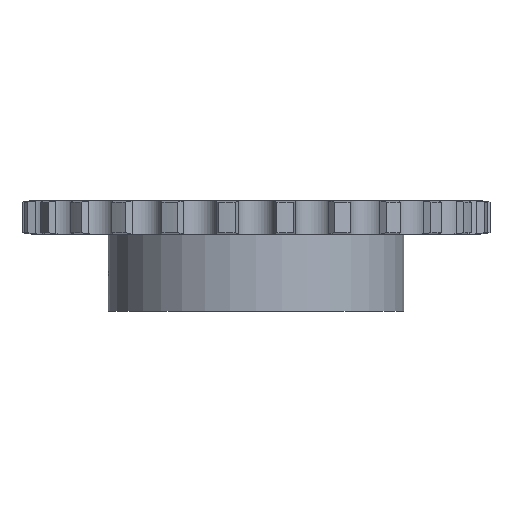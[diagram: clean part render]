
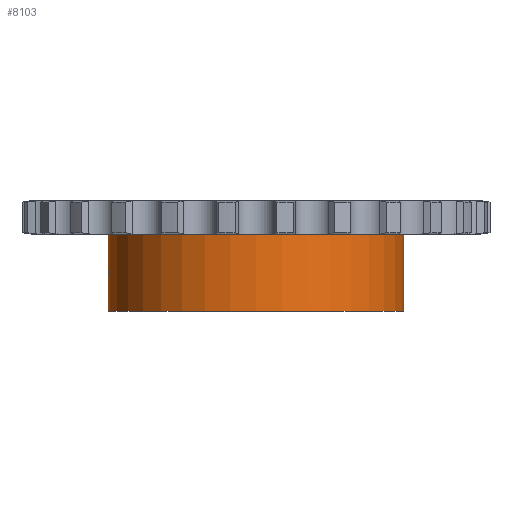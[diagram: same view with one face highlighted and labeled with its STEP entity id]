
A CAD part, front view. The second image highlights one B-rep face of the part: STEP entity #8103.
In plain terms, the highlighted cylindrical face has radius 40 mm (diameter 80 mm), a partial arc.
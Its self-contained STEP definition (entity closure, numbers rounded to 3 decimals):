
#1375=CARTESIAN_POINT('',(0.,0.,-4.55));
#1376=DIRECTION('',(0.,0.,1.));
#1377=DIRECTION('',(-1.,0.,0.));
#1378=AXIS2_PLACEMENT_3D('',#1375,#1376,#1377);
#4156=CARTESIAN_POINT('',(-40.,0.,
-13.));
#4178=DIRECTION('',(0.,0.,1.));
#4179=VECTOR('',#4178,20.9);
#4180=CARTESIAN_POINT('',(40.,0.,-25.45));
#4181=LINE('',#4180,#4179);
#4297=CARTESIAN_POINT('',(-40.,0.,
-13.));
#4298=CARTESIAN_POINT('',(-40.,-0.105,
-13.));
#4299=CARTESIAN_POINT('',(-39.999,-0.313,
-13.016));
#4300=CARTESIAN_POINT('',(-39.995,-0.626,
-13.09));
#4301=CARTESIAN_POINT('',(-39.99,-0.924,
-13.213));
#4302=CARTESIAN_POINT('',(-39.982,-1.196,
-13.379));
#4303=CARTESIAN_POINT('',(-39.974,-1.437,
-13.584));
#4304=CARTESIAN_POINT('',(-39.966,-1.643,
-13.825));
#4305=CARTESIAN_POINT('',(-39.959,-1.809,
-14.096));
#4306=CARTESIAN_POINT('',(-39.953,-1.93,
-14.39));
#4307=CARTESIAN_POINT('',(-39.95,-2.002,
-14.697));
#4308=CARTESIAN_POINT('',(-39.949,-2.018,
-14.899));
#4309=CARTESIAN_POINT('',(-39.949,-2.018,
-15.));
#4314=DIRECTION('',(0.,0.,1.));
#4315=VECTOR('',#4314,8.45);
#4316=CARTESIAN_POINT('',(-40.,0.,
-13.));
#4317=LINE('',#4316,#4315);
#4321=DIRECTION('',(0.,0.,1.));
#4322=VECTOR('',#4321,8.45);
#4323=CARTESIAN_POINT('',(-40.,0.,-25.45));
#4324=LINE('',#4323,#4322);
#4328=CARTESIAN_POINT('',(-39.949,-2.018,
-15.));
#4329=CARTESIAN_POINT('',(-39.949,-2.018,
-15.101));
#4330=CARTESIAN_POINT('',(-39.95,-2.002,
-15.302));
#4331=CARTESIAN_POINT('',(-39.953,-1.931,
-15.608));
#4332=CARTESIAN_POINT('',(-39.959,-1.81,
-15.902));
#4333=CARTESIAN_POINT('',(-39.966,-1.644,
-16.175));
#4334=CARTESIAN_POINT('',(-39.974,-1.437,
-16.415));
#4335=CARTESIAN_POINT('',(-39.982,-1.197,
-16.62));
#4336=CARTESIAN_POINT('',(-39.99,-0.925,
-16.787));
#4337=CARTESIAN_POINT('',(-39.995,-0.627,
-16.91));
#4338=CARTESIAN_POINT('',(-39.999,-0.313,
-16.984));
#4339=CARTESIAN_POINT('',(-40.,-0.105,
-17.));
#4340=CARTESIAN_POINT('',(-40.,0.,
-17.));
#4353=CARTESIAN_POINT('',(0.,0.,-25.45));
#4354=DIRECTION('',(0.,0.,-1.));
#4355=DIRECTION('',(1.,0.,0.));
#4356=AXIS2_PLACEMENT_3D('',#4353,#4354,#4355);
#4778=CARTESIAN_POINT('',(-40.,0.,-25.45));
#4779=CARTESIAN_POINT('',(40.,0.,-25.45));
#4780=VERTEX_POINT('',#4778);
#4781=VERTEX_POINT('',#4779);
#4782=CARTESIAN_POINT('',(40.,0.,-4.55));
#4783=VERTEX_POINT('',#4782);
#4784=CARTESIAN_POINT('',(-40.,0.,-4.55));
#4785=VERTEX_POINT('',#4784);
#5065=VERTEX_POINT('',#4156);
#5068=VERTEX_POINT('',#4309);
#5070=VERTEX_POINT('',#4340);
#8087=CARTESIAN_POINT('',(0.,0.,4.55));
#8088=DIRECTION('',(0.,0.,1.));
#8089=DIRECTION('',(1.,0.,0.));
#8090=AXIS2_PLACEMENT_3D('',#8087,#8088,#8089);
#8091=CYLINDRICAL_SURFACE('',#8090,40.);
#8092=ORIENTED_EDGE('',*,*,#8077,.F.);
#8093=ORIENTED_EDGE('',*,*,#7708,.T.);
#8094=ORIENTED_EDGE('',*,*,#6497,.T.);
#8095=ORIENTED_EDGE('',*,*,#7705,.F.);
#8097=ORIENTED_EDGE('',*,*,#8096,.T.);
#8098=ORIENTED_EDGE('',*,*,#7701,.T.);
#8100=ORIENTED_EDGE('',*,*,#8099,.F.);
#8101=EDGE_LOOP('',(#8092,#8093,#8094,#8095,#8097,#8098,#8100));
#8102=FACE_OUTER_BOUND('',#8101,.F.);
#8103=ADVANCED_FACE('',(#8102),#8091,.T.);
#1379=CIRCLE('',#1378,40.);
#4310=B_SPLINE_CURVE_WITH_KNOTS('',3,(#4297,#4298,#4299,#4300,#4301,#4302,#4303,
#4304,#4305,#4306,#4307,#4308,#4309),.UNSPECIFIED.,.F.,.F.,(4,1,1,1,1,1,1,1,1,1,
4),(0.,0.1,0.2,0.3,0.4,0.5,0.6,0.7,0.8,0.9,1.),
.UNSPECIFIED.);
#4341=B_SPLINE_CURVE_WITH_KNOTS('',3,(#4328,#4329,#4330,#4331,#4332,#4333,#4334,
#4335,#4336,#4337,#4338,#4339,#4340),.UNSPECIFIED.,.F.,.F.,(4,1,1,1,1,1,1,1,1,1,
4),(0.,0.1,0.2,0.3,0.4,0.5,0.6,0.7,0.8,0.9,1.),
.UNSPECIFIED.);
#4357=CIRCLE('',#4356,40.);
#6497=EDGE_CURVE('',#4785,#4783,#1379,.T.);
#7701=EDGE_CURVE('',#4780,#5070,#4324,.T.);
#7705=EDGE_CURVE('',#4781,#4783,#4181,.T.);
#7708=EDGE_CURVE('',#5065,#4785,#4317,.T.);
#8077=EDGE_CURVE('',#5065,#5068,#4310,.T.);
#8096=EDGE_CURVE('',#4781,#4780,#4357,.T.);
#8099=EDGE_CURVE('',#5068,#5070,#4341,.T.);
